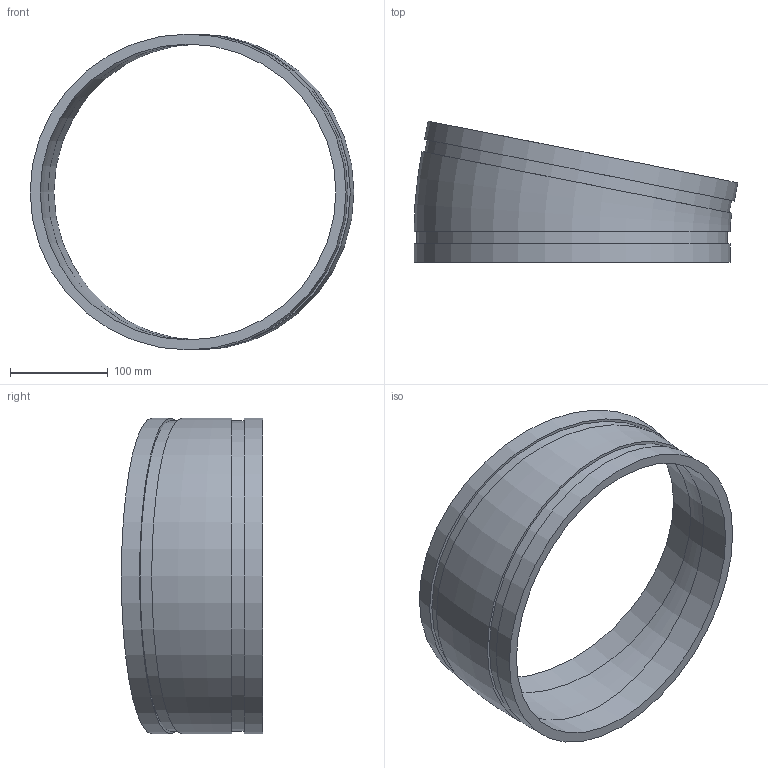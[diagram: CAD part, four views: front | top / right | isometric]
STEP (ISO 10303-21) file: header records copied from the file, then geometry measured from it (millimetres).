
FILE_DESCRIPTION(/* description */ ('VIC 11-1/4 DEG. ELBOW No 13','CAx-IF Rec.Pracs.---Representation and Presentation of Product Manufacturing Information (PMI)---4.0---2014-10-13'),/* implementation_level */ '2;1');
FILE_NAME(/* name */ 'C:\Users\kkamble\AppData\Roaming\Autodesk\ApplicationPlugins\Back Up\Victaulic_IPS_Elbow 11.25 Deg_No 13 (OGS)\Victaulic_IPS_Elbow 11.25 Deg_No 13 (OGS)_12 (300).stp',/* time_stamp */ '2020-07-24T08:09:31+06:00',/* author */ ('CONSTRUCTION PIPING SERVICES'),/* organization */ ('Victaulic'),/* preprocessor_version */ 'ST-DEVELOPER v17.2',/* originating_system */ 'Autodesk Inventor 2019',/* authorisation */ '');
FILE_SCHEMA (('AP242_MANAGED_MODEL_BASED_3D_ENGINEERING_MIM_LF { 1 0 10303 442 1 1 4 }'));
Length unit declared in the file: inch
Products named in the file (1): 013-12.0
Bounding box: 331.89 x 144.79 x 323.85 mm (x, y, z)
Volume: 1088119.2 mm3; surface area: 255944.3 mm2
Topology: 1 solids, 1 shells, 14 faces, 32 edges, 24 vertices
Faces by surface type: plane 6, cylinder 6, torus 2
Full cylindrical faces by diameter (mm): 303.225 x2, 318.287 x2, 323.85 x2
Entity records: 487 total; most frequent: DIRECTION 88, CARTESIAN_POINT 71, ORIENTED_EDGE 64, AXIS2_PLACEMENT_3D 41, EDGE_CURVE 32, CIRCLE 26, VERTEX_POINT 24, EDGE_LOOP 20
